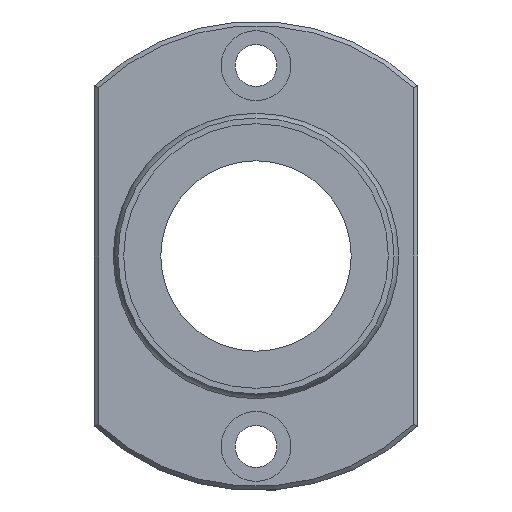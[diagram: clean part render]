
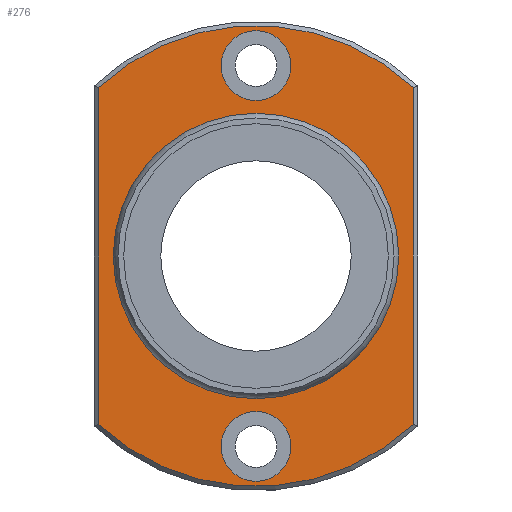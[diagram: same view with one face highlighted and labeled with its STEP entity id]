
A CAD part, left-side view. The second image highlights one B-rep face of the part: STEP entity #276.
In plain terms, the highlighted planar face has unit normal (-1, 0, 0).
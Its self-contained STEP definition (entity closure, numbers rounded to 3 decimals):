
#59=CARTESIAN_POINT('',(56.,-24.8,26.508));
#60=VERTEX_POINT('',#59);
#68=CARTESIAN_POINT('',(56.,-24.8,-26.508));
#69=VERTEX_POINT('',#68);
#70=CARTESIAN_POINT('',(56.,-24.8,26.508));
#71=DIRECTION('',(0.0,0.0,-1.0));
#72=VECTOR('',#71,53.015);
#73=LINE('',#70,#72);
#74=EDGE_CURVE('',#60,#69,#73,.T.);
#101=CARTESIAN_POINT('',(56.,24.8,-26.508));
#102=VERTEX_POINT('',#101);
#103=CARTESIAN_POINT('',(56.,0.0,0.0));
#104=DIRECTION('',(1.0,0.0,0.0));
#105=DIRECTION('',(0.0,0.0,-1.0));
#106=AXIS2_PLACEMENT_3D('',#103,#104,#105);
#107=CIRCLE('',#106,36.3);
#108=EDGE_CURVE('',#69,#102,#107,.T.);
#134=CARTESIAN_POINT('',(56.,24.8,26.508));
#135=VERTEX_POINT('',#134);
#136=CARTESIAN_POINT('',(56.,24.8,-26.508));
#137=DIRECTION('',(0.0,0.0,1.0));
#138=VECTOR('',#137,53.015);
#139=LINE('',#136,#138);
#140=EDGE_CURVE('',#102,#135,#139,.T.);
#165=CARTESIAN_POINT('',(56.,0.0,0.0));
#166=DIRECTION('',(1.0,0.0,0.0));
#167=DIRECTION('',(0.0,0.0,1.0));
#168=AXIS2_PLACEMENT_3D('',#165,#166,#167);
#169=CIRCLE('',#168,36.3);
#170=EDGE_CURVE('',#135,#60,#169,.T.);
#232=CARTESIAN_POINT('',(56.,0.0,29.563));
#233=DIRECTION('',(-1.0,0.0,0.0));
#234=DIRECTION('',(0.0,0.0,1.0));
#235=AXIS2_PLACEMENT_3D('',#232,#233,#234);
#236=PLANE('',#235);
#237=ORIENTED_EDGE('',*,*,#74,.F.);
#238=ORIENTED_EDGE('',*,*,#170,.F.);
#239=ORIENTED_EDGE('',*,*,#140,.F.);
#240=ORIENTED_EDGE('',*,*,#108,.F.);
#241=EDGE_LOOP('',(#237,#238,#239,#240));
#242=FACE_OUTER_BOUND('',#241,.T.);
#243=CARTESIAN_POINT('',(56.,0.0,22.127));
#244=VERTEX_POINT('',#243);
#245=CARTESIAN_POINT('',(56.,0.0,0.0));
#246=DIRECTION('',(-1.0,0.0,0.0));
#247=DIRECTION('',(0.0,0.0,1.0));
#248=AXIS2_PLACEMENT_3D('',#245,#246,#247);
#249=CIRCLE('',#248,22.127);
#250=EDGE_CURVE('',#244,#244,#249,.T.);
#251=ORIENTED_EDGE('',*,*,#250,.F.);
#252=EDGE_LOOP('',(#251));
#253=FACE_BOUND('',#252,.T.);
#254=CARTESIAN_POINT('',(56.,5.5,-30.0));
#255=VERTEX_POINT('',#254);
#256=CARTESIAN_POINT('',(56.,0.,-30.0));
#257=DIRECTION('',(1.0,0.0,0.0));
#258=DIRECTION('',(0.0,1.0,0.0));
#259=AXIS2_PLACEMENT_3D('',#256,#257,#258);
#260=CIRCLE('',#259,5.5);
#261=EDGE_CURVE('',#255,#255,#260,.T.);
#262=ORIENTED_EDGE('',*,*,#261,.T.);
#263=EDGE_LOOP('',(#262));
#264=FACE_BOUND('',#263,.T.);
#265=CARTESIAN_POINT('',(56.,5.5,30.0));
#266=VERTEX_POINT('',#265);
#267=CARTESIAN_POINT('',(56.,0.,30.0));
#268=DIRECTION('',(1.0,0.0,0.0));
#269=DIRECTION('',(0.0,1.0,0.0));
#270=AXIS2_PLACEMENT_3D('',#267,#268,#269);
#271=CIRCLE('',#270,5.5);
#272=EDGE_CURVE('',#266,#266,#271,.T.);
#273=ORIENTED_EDGE('',*,*,#272,.T.);
#274=EDGE_LOOP('',(#273));
#275=FACE_BOUND('',#274,.T.);
#276=ADVANCED_FACE('',(#242,#253,#264,#275),#236,.T.);
